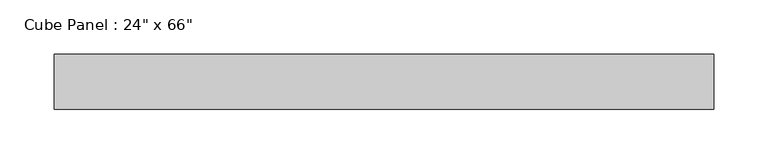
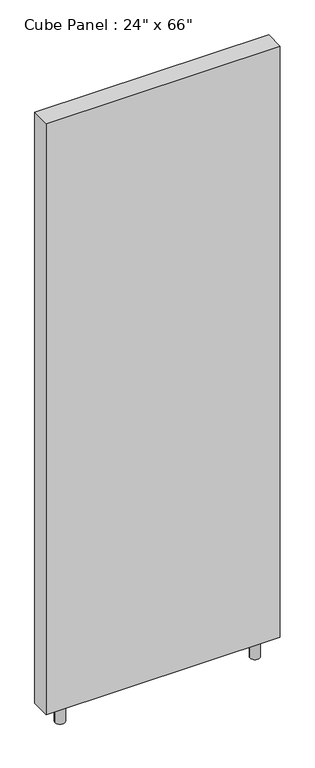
"""IFC4 building model written with IfcOpenShell, lengths in millimetres: furniture geometry."""

import ifcopenshell
import ifcopenshell.guid

model = None  # the IFC model being written
_history = None  # IfcOwnerHistory: only IFC2X3 demands one
_inside = {}  # id of a spatial element -> (the spatial element, [elements in it])
_under = {}  # id of a project, library or spatial element -> (it, [spatial elements below it])
_declared = {}  # id of a project -> (the project, [libraries it declares])
_typed = {}  # id of a type object -> (the type object, [elements of that type])
_made_of = {}  # id of a material, layer set ... -> (it, [elements and type objects made of it])


def new_model(schema):
    """Start an empty IFC model of exactly this schema.

    Asked for "IFC4X3", IfcOpenShell would pick the latest addendum, in which some entities
    have other attributes; the version numbers below select the first issue.
    IFC2X3 requires an IfcOwnerHistory on every rooted entity: one is made here for all.
    """
    global model, _history
    if schema == "IFC4X3":
        model = ifcopenshell.file(schema_version=(4, 3, 0, 0))
    else:
        model = ifcopenshell.file(schema=schema)
    _inside.clear()
    _under.clear()
    _declared.clear()
    _typed.clear()
    _made_of.clear()
    _history = None
    if model.schema == "IFC2X3":
        org = make("IfcOrganization", Name="unknown")
        user = make(
            "IfcPersonAndOrganization",
            ThePerson=make("IfcPerson", FamilyName="unknown"),
            TheOrganization=org,
        )
        app = make(
            "IfcApplication",
            ApplicationDeveloper=org,
            Version="unknown",
            ApplicationFullName="unknown",
            ApplicationIdentifier="unknown",
        )
        _history = make(
            "IfcOwnerHistory",
            OwningUser=user,
            OwningApplication=app,
            ChangeAction="ADDED",
            CreationDate=0,
        )
    return model


def make(cls, **values):
    """One entity of the class cls with the attributes given. An attribute that is None is left unset."""
    return model.create_entity(
        cls, **{name: value for name, value in values.items() if value is not None}
    )


def rooted(cls, **values):
    """An entity with a GlobalId (a new one), such as an element, a storey or a relation."""
    return make(cls, GlobalId=ifcopenshell.guid.new(), OwnerHistory=_history, **values)


def si_unit(unit_type, name, prefix=None):
    """IfcSIUnit, for example si_unit("LENGTHUNIT", "METRE", prefix="MILLI")."""
    return make("IfcSIUnit", UnitType=unit_type, Prefix=prefix, Name=name)


def assignment(units):
    """IfcUnitAssignment: the units of a project."""
    return None if units is None else make("IfcUnitAssignment", Units=units)


def point(xyz):
    """IfcCartesianPoint."""
    return None if xyz is None else make("IfcCartesianPoint", Coordinates=xyz)


def direction(xyz):
    """IfcDirection."""
    return None if xyz is None else make("IfcDirection", DirectionRatios=xyz)


def frame(location, z_axis=None, x_axis=None):
    """IfcAxis2Placement3D, a coordinate frame: its origin and axes. An axis left out is left unset."""
    return make(
        "IfcAxis2Placement3D",
        Location=point(location),
        Axis=direction(z_axis),
        RefDirection=direction(x_axis),
    )


def frame_2d(location, x_axis=None):
    """IfcAxis2Placement2D, a coordinate frame in the plane: its origin and x axis."""
    return make(
        "IfcAxis2Placement2D", Location=point(location), RefDirection=direction(x_axis)
    )


def origin():
    """The frame at (0, 0, 0) with its axes left unset."""
    return frame((0.0, 0.0, 0.0))


def origin_with_axes():
    """The frame at (0, 0, 0) with the z axis (0, 0, 1) and the x axis (1, 0, 0) written out."""
    return frame((0.0, 0.0, 0.0), z_axis=(0.0, 0.0, 1.0), x_axis=(1.0, 0.0, 0.0))


def place(relative_to, where):
    """IfcLocalPlacement: puts the frame where relative to a parent placement (None: the world)."""
    return make(
        "IfcLocalPlacement", PlacementRelTo=relative_to, RelativePlacement=where
    )


def context(
    kind, dimensions, precision=None, world=None, true_north=None, identifier=None
):
    """IfcGeometricRepresentationContext, for example the 3D "Model" context."""
    return make(
        "IfcGeometricRepresentationContext",
        ContextIdentifier=identifier,
        ContextType=kind,
        CoordinateSpaceDimension=dimensions,
        Precision=precision,
        WorldCoordinateSystem=world,
        TrueNorth=true_north,
    )


def project(units=None, contexts=None):
    """IfcProject with its units and contexts."""
    return rooted(
        "IfcProject",
        Name="project",
        RepresentationContexts=contexts,
        UnitsInContext=assignment(units),
    )


def spatial(cls, under=None, at=None, **own):
    """A site, building, storey or space (cls), placed at a placement, below another one or the project."""
    s = rooted(cls, ObjectPlacement=at, **own)
    if under is not None:
        _under.setdefault(under.id(), (under, []))[1].append(s)
    return s


def polyline(points):
    """IfcPolyline through the points."""
    return make("IfcPolyline", Points=[point(p) for p in points])


def circle_curve(where, radius):
    """IfcCircle in the frame where."""
    return make("IfcCircle", Position=where, Radius=radius)


def trimmed(basis, trim1, trim2, sense, master):
    """IfcTrimmedCurve: the piece of a basis curve between two trims."""
    return make(
        "IfcTrimmedCurve",
        BasisCurve=basis,
        Trim1=trim1,
        Trim2=trim2,
        SenseAgreement=sense,
        MasterRepresentation=master,
    )


def segment(curve, same_sense, transition):
    """IfcCompositeCurveSegment."""
    return make(
        "IfcCompositeCurveSegment",
        Transition=transition,
        SameSense=same_sense,
        ParentCurve=curve,
    )


def composite_curve(segments, self_intersect=None):
    """IfcCompositeCurve: segments joined end to end."""
    return make("IfcCompositeCurve", Segments=segments, SelfIntersect=self_intersect)


def outline(outer, holes=None, kind="AREA"):
    """IfcArbitraryClosedProfileDef: a profile drawn as a closed curve; with holes, ...WithVoids."""
    if holes is None:
        return make("IfcArbitraryClosedProfileDef", ProfileType=kind, OuterCurve=outer)
    return make(
        "IfcArbitraryProfileDefWithVoids",
        ProfileType=kind,
        OuterCurve=outer,
        InnerCurves=holes,
    )


def extrude(swept, where, along, depth):
    """IfcExtrudedAreaSolid: the profile swept, set in the frame where, extruded along a direction by depth."""
    return make(
        "IfcExtrudedAreaSolid",
        SweptArea=swept,
        Position=where,
        ExtrudedDirection=direction(along),
        Depth=depth,
    )


def shape(context_of_items, identifier, shape_type, items):
    """IfcShapeRepresentation: the items that make up one representation, for example the "Body"."""
    return make(
        "IfcShapeRepresentation",
        ContextOfItems=context_of_items,
        RepresentationIdentifier=identifier,
        RepresentationType=shape_type,
        Items=items,
    )


def source(mapping_origin, context_of_items, identifier, shape_type, items):
    """IfcRepresentationMap: a shape defined once, which mapped items show again and again."""
    return make(
        "IfcRepresentationMap",
        MappingOrigin=mapping_origin,
        MappedRepresentation=shape(context_of_items, identifier, shape_type, items),
    )


def transform(
    local_origin,
    x_axis=None,
    y_axis=None,
    z_axis=None,
    scale=None,
    scale2=None,
    scale3=None,
    uniform=True,
):
    """IfcCartesianTransformationOperator3D, or its non-uniform kind. x_axis, y_axis, z_axis: its Axis1, 2, 3."""
    if uniform:
        return make(
            "IfcCartesianTransformationOperator3D",
            Axis1=direction(x_axis),
            Axis2=direction(y_axis),
            LocalOrigin=point(local_origin),
            Scale=scale,
            Axis3=direction(z_axis),
        )
    return make(
        "IfcCartesianTransformationOperator3DnonUniform",
        Axis1=direction(x_axis),
        Axis2=direction(y_axis),
        LocalOrigin=point(local_origin),
        Scale=scale,
        Axis3=direction(z_axis),
        Scale2=scale2,
        Scale3=scale3,
    )


def mapped(mapping_source, mapping_target):
    """IfcMappedItem: shows the shape of a source again, moved by a transform."""
    return make(
        "IfcMappedItem", MappingSource=mapping_source, MappingTarget=mapping_target
    )


def made_of(thing, what):
    """Note that an element or type object is made of a material, layer set ...; save() writes the relation."""
    if what is not None:
        _made_of.setdefault(what.id(), (what, []))[1].append(thing)
    return thing


def element(
    cls,
    number,
    at=None,
    inside=None,
    cuts=None,
    type_object=None,
    material=None,
    context=None,
    identifier="Body",
    shape_type=None,
    held_by="IfcProductDefinitionShape",
    body=None,
    shapes=None,
    **own,
):
    """One element of the class cls, such as IfcWall. Its Tag is "e" and its number.

    at: its placement. inside: the storey or other place that contains it. cuts: it is an
    opening in that element (IfcRelVoidsElement). A single representation is given by context,
    identifier, shape_type and body (its items); several are given by shapes. held_by: the class
    of the entity that holds the representations. save() writes the other relations.
    """
    e = rooted(cls, Tag="e%d" % number, ObjectPlacement=at, **own)
    if body is not None:
        shapes = [shape(context, identifier, shape_type, body)]
    if shapes is not None:
        e.Representation = make(held_by, Representations=shapes)
    if inside is not None:
        _inside.setdefault(inside.id(), (inside, []))[1].append(e)
    if cuts is not None:
        rooted(
            "IfcRelVoidsElement", RelatingBuildingElement=cuts, RelatedOpeningElement=e
        )
    if type_object is not None:
        _typed.setdefault(type_object.id(), (type_object, []))[1].append(e)
    return made_of(e, material)


def aggregate(whole, parts):
    """IfcRelAggregates: a whole, such as a stair, and the parts it consists of."""
    return rooted("IfcRelAggregates", RelatingObject=whole, RelatedObjects=parts)


def save(model, path):
    """Write the relations noted so far, then the file.

    IfcRelAggregates (storeys below a building ...), IfcRelContainedInSpatialStructure (elements
    in a storey), IfcRelDefinesByType, IfcRelAssociatesMaterial and IfcRelDeclares: one each for
    every whole, place, type object, material and project.
    """
    for whole, parts in _under.values():
        aggregate(whole, parts)
    for where, things in _inside.values():
        rooted(
            "IfcRelContainedInSpatialStructure",
            RelatedElements=things,
            RelatingStructure=where,
        )
    for kind, things in _typed.values():
        rooted("IfcRelDefinesByType", RelatedObjects=things, RelatingType=kind)
    for what, things in _made_of.values():
        rooted("IfcRelAssociatesMaterial", RelatedObjects=things, RelatingMaterial=what)
    for by, libraries in _declared.values():
        rooted("IfcRelDeclares", RelatingContext=by, RelatedDefinitions=libraries)
    model.write(path)


def furniture_665347ce(model_context):
    return source(origin(), model_context, "Body", "SweptSolid", [
        extrude(outline(composite_curve([segment(trimmed(circle_curve(frame_2d((-254.0, 0.0)), 12.7), [point((-266.7, 0.0))], [point((-241.3, 0.0))], False, "CARTESIAN"), True, "CONTINUOUS"), segment(trimmed(circle_curve(frame_2d((-254.0, 0.0)), 12.7), [point((-241.3, 0.0))], [point((-266.7, 0.0))], False, "CARTESIAN"), True, "CONTINUOUS")], self_intersect=False)), origin_with_axes(), (0.0, 0.0, 1.0), 50.8),
        extrude(outline(composite_curve([segment(trimmed(circle_curve(frame_2d((254.0, 0.0)), 12.7), [point((241.3, 0.0))], [point((266.7, 0.0))], False, "CARTESIAN"), True, "CONTINUOUS"), segment(trimmed(circle_curve(frame_2d((254.0, 0.0)), 12.7), [point((266.7, 0.0))], [point((241.3, 0.0))], False, "CARTESIAN"), True, "CONTINUOUS")], self_intersect=False)), origin_with_axes(), (0.0, 0.0, 1.0), 50.8),
        extrude(outline(polyline([(304.8, 25.4), (304.8, -25.4), (-304.8, -25.4), (-304.8, 25.4), (304.8, 25.4)])), frame((0.0, 0.0, 50.8), z_axis=(0.0, 0.0, 1.0), x_axis=(1.0, 0.0, 0.0)), (0.0, 0.0, 1.0), 1625.6),
    ])


if __name__ == "__main__":
    model = new_model("IFC4")
    model_context = context("Model", 3, world=origin())
    ifc_project = project(units=[si_unit("LENGTHUNIT", "METRE", prefix="MILLI")], contexts=[model_context])
    site = spatial("IfcSite", under=ifc_project)
    building = spatial("IfcBuilding", under=site)
    placement = place(None, origin())
    furniture_shape = furniture_665347ce(model_context)
    element("IfcFurniture", 1, ObjectType="Cube Panel : 24\" x 66\"", at=placement, inside=building, context=model_context, shape_type="MappedRepresentation", body=[
        mapped(furniture_shape, transform((0.0, 0.0, 0.0), x_axis=(1.0, 0.0, 0.0), y_axis=(0.0, 1.0, 0.0), z_axis=(0.0, 0.0, 1.0))),
    ])
    save(model, "model.ifc")
